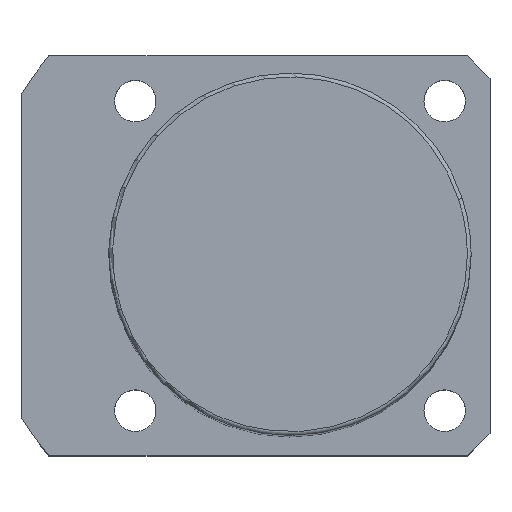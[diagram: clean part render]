
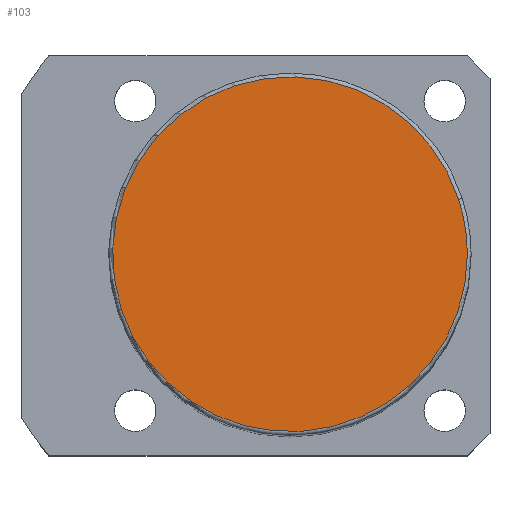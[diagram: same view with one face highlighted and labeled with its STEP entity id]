
A CAD part, top view. The second image highlights one B-rep face of the part: STEP entity #103.
In plain terms, the highlighted planar face has unit normal (0, 0, 1).
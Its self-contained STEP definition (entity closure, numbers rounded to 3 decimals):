
#16=CARTESIAN_POINT('',(-22.35,-7.262,134.0));
#17=VERTEX_POINT('',#16);
#54=CARTESIAN_POINT('',(22.35,7.262,134.0));
#55=VERTEX_POINT('',#54);
#63=CARTESIAN_POINT('',(23.5,0.0,134.0));
#64=VERTEX_POINT('',#63);
#65=CARTESIAN_POINT('',(0.0,0.0,134.0));
#66=DIRECTION('',(0.0,0.0,1.0));
#67=DIRECTION('',(1.0,0.0,0.0));
#68=AXIS2_PLACEMENT_3D('',#65,#66,#67);
#69=CIRCLE('',#68,23.5);
#70=EDGE_CURVE('no 898',#64,#55,#69,.T.);
#72=CARTESIAN_POINT('',(0.0,0.0,134.0));
#73=DIRECTION('',(0.0,0.0,1.0));
#74=DIRECTION('',(1.0,0.0,0.0));
#75=AXIS2_PLACEMENT_3D('',#72,#73,#74);
#76=CIRCLE('',#75,23.5);
#77=EDGE_CURVE('no 902',#17,#64,#76,.T.);
#87=ORIENTED_EDGE('',*,*,#70,.T.);
#88=CARTESIAN_POINT('',(0.0,0.0,134.0));
#89=DIRECTION('',(0.0,0.0,1.0));
#90=DIRECTION('',(1.0,0.0,0.0));
#91=AXIS2_PLACEMENT_3D('',#88,#89,#90);
#92=CIRCLE('',#91,23.5);
#93=EDGE_CURVE('no 911',#55,#17,#92,.T.);
#94=ORIENTED_EDGE('',*,*,#93,.T.);
#95=ORIENTED_EDGE('',*,*,#77,.T.);
#96=EDGE_LOOP('',(#87,#94,#95));
#97=FACE_OUTER_BOUND('',#96,.T.);
#98=CARTESIAN_POINT('',(0.0,0.0,134.0));
#99=DIRECTION('',(0.0,0.0,1.0));
#100=DIRECTION('',(1.0,0.0,0.0));
#101=AXIS2_PLACEMENT_3D('',#98,#99,#100);
#102=PLANE('',#101);
#103=ADVANCED_FACE('no 904',(#97),#102,.T.);
